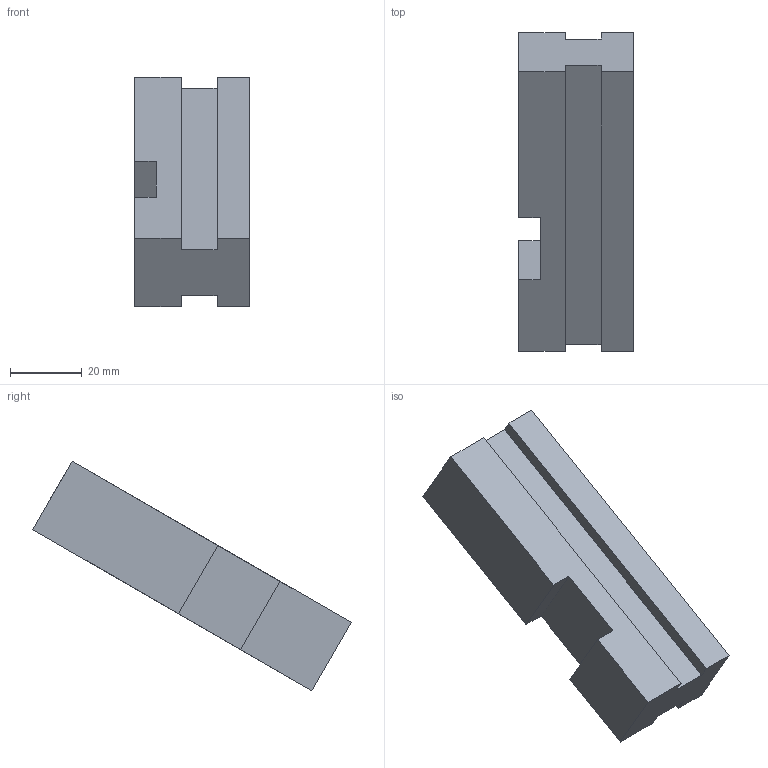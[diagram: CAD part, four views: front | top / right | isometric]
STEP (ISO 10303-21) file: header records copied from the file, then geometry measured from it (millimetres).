
FILE_DESCRIPTION(('CATIA V5 STEP Exchange'),'2;1');
FILE_NAME('D:\Clients_NCS8\Cenit-AG\Import\OKUMA250\C2-M2.stp','2005-03-09T16:54:20+00:00',('none'),('none'),'CATIA Version 5 Release 14 (IN-10)','CATIA V5 STEP AP203','none');
FILE_SCHEMA(('CONFIG_CONTROL_DESIGN'));
Length unit declared in the file: millimetre
Products named in the file (2): okuma_dr-fr; Forkart_FNC200
Assembly tree (2 placements, depth 3):
  okuma_dr-fr
    Forkart_FNC200
      #62
Bounding box: 32 x 88.94 x 64.05 mm (x, y, z)
Volume: 54240 mm3; surface area: 12304 mm2
Topology: 1 solids, 1 shells, 18 faces, 48 edges, 32 vertices
Faces by surface type: plane 18
Entity records: 610 total; most frequent: CARTESIAN_POINT 97, ORIENTED_EDGE 96, DIRECTION 82, VECTOR 48, EDGE_CURVE 48, LINE 48, VERTEX_POINT 32, ADVANCED_FACE 18
